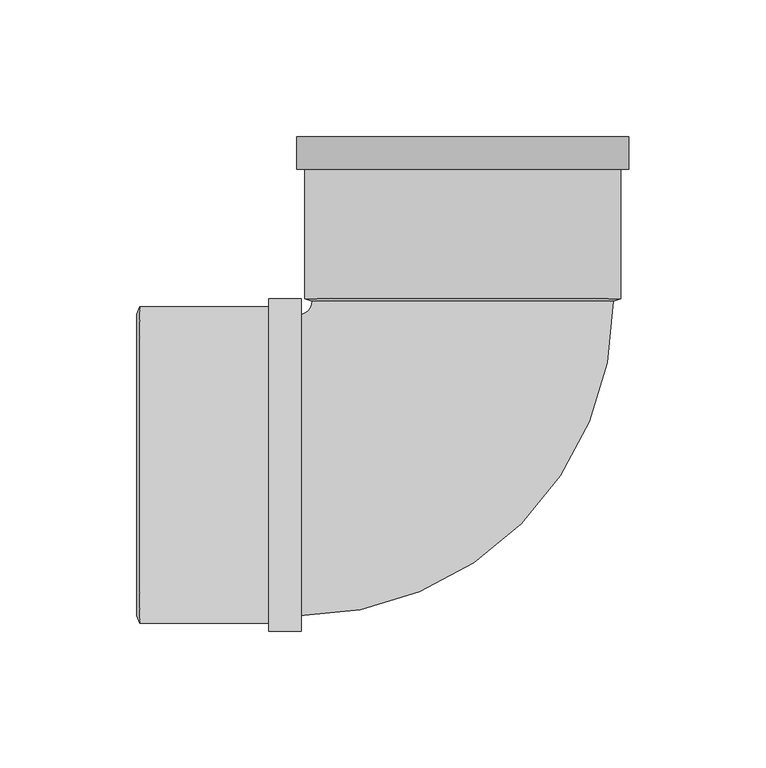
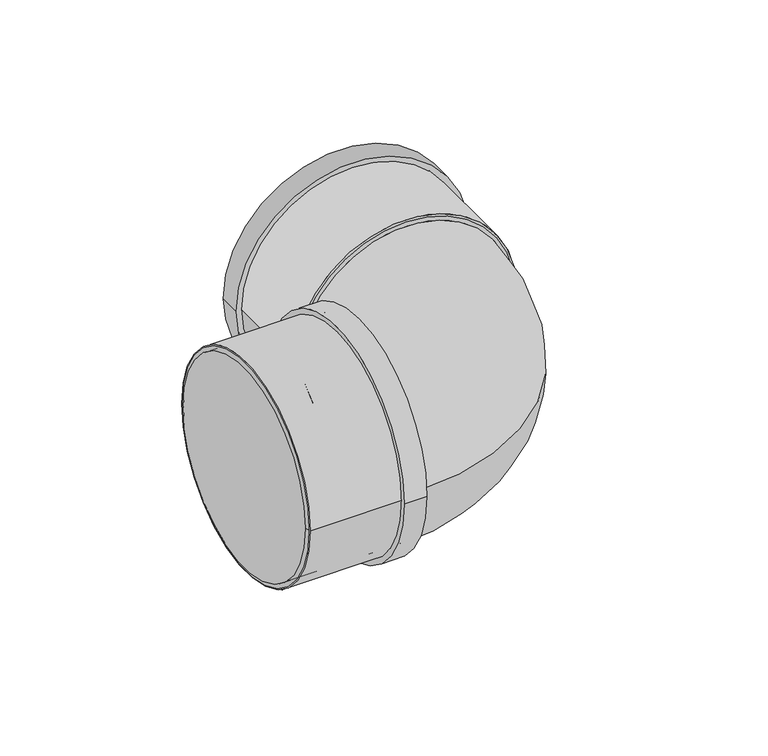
"""IFC4 building model written with IfcOpenShell, lengths in millimetres: pipe fitting geometry, Superdrain SK Bend_Composite 2x45 : Superdrain SK Bend_Composite 2x45."""

from ifc_helpers import new_model, si_unit, point, frame, origin, origin_2d, place, context, project, spatial, polyline, circle_curve, ellipse_curve, trimmed, segment, composite_curve, outline, extrude, source, transform, mapped, element, save
from ifc_brep_helpers import plane_surface, revolved_surface, advanced_brep


def pipe_fitting_bf39f6b9(model_context):
    return source(origin(), model_context, "Body", "SolidModel", [
        extrude(outline(composite_curve([segment(trimmed(circle_curve(origin_2d(), 57.75), [point((57.75, 0.0))], [point((-57.75, 0.0))], False, "CARTESIAN"), True, "CONTINUOUS"), segment(trimmed(circle_curve(origin_2d(), 57.75), [point((-57.75, 0.0))], [point((57.75, 0.0))], False, "CARTESIAN"), True, "CONTINUOUS")], self_intersect=False), holes=[composite_curve([segment(trimmed(circle_curve(origin_2d(), 55.0), [point((55.0, 0.0))], [point((-55.0, 0.0))], True, "CARTESIAN"), True, "CONTINUOUS"), segment(trimmed(circle_curve(origin_2d(), 55.0), [point((-55.0, 0.0))], [point((55.0, 0.0))], True, "CARTESIAN"), True, "CONTINUOUS")], self_intersect=False)]), frame((-118.0, 0.0, 0.0), z_axis=(1.0, 0.0, 0.0), x_axis=(0.0, 1.0, 0.0)), (0.0, 0.0, 1.0), 59.0),
        extrude(outline(composite_curve([segment(trimmed(circle_curve(origin_2d(), 60.6375), [point((60.6375, 0.0))], [point((-60.6375, 0.0))], False, "CARTESIAN"), True, "CONTINUOUS"), segment(trimmed(circle_curve(origin_2d(), 60.6375), [point((-60.6375, 0.0))], [point((60.6375, 0.0))], False, "CARTESIAN"), True, "CONTINUOUS")], self_intersect=False), holes=[composite_curve([segment(trimmed(circle_curve(origin_2d(), 55.0), [point((55.0, 0.0))], [point((-55.0, 0.0))], True, "CARTESIAN"), True, "CONTINUOUS"), segment(trimmed(circle_curve(origin_2d(), 55.0), [point((-55.0, 0.0))], [point((55.0, 0.0))], True, "CARTESIAN"), True, "CONTINUOUS")], self_intersect=False)]), frame((-70.8, 0.0, 0.0), z_axis=(1.0, 0.0, 0.0), x_axis=(0.0, 1.0, 0.0)), (0.0, 0.0, 1.0), 11.8),
        advanced_brep(
        [(-119.0, 55.0, 0.0), (-119.0, -55.0, 0.0), (-118.0, 57.75, 0.0), (-118.0, -57.75, 0.0)],
        [
            (0, 1, circle_curve(frame((-119.0, 0.0, 0.0), z_axis=(-1.0, 0.0, 0.0), x_axis=(0.0, 1.0000000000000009, 0.0)), 55.0)),
            (1, 0, circle_curve(frame((-119.0, 0.0, 0.0), z_axis=(-1.0, 0.0, 0.0), x_axis=(0.0, -1.0000000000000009, 0.0)), 55.0)),
            (2, 3, circle_curve(frame((-118.0, 0.0, 0.0), z_axis=(1.0, 0.0, 0.0), x_axis=(0.0, -1.0000000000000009, 0.0)), 57.75)),
            (3, 2, circle_curve(frame((-118.0, 0.0, 0.0), z_axis=(1.0, 0.0, 0.0), x_axis=(0.0, 1.0000000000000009, 0.0)), 57.75)),
            (3, 1),
            (0, 2),
        ],
        [
            plane_surface(frame((-119.0, 0.0, 0.0), z_axis=(-1.0, 0.0, 0.0), x_axis=(0.0, 0.0, -1.0))),
            plane_surface(frame((-118.0, 0.0, 0.0), z_axis=(1.0, 0.0, 0.0), x_axis=(0.0, 0.0, -1.0))),
            revolved_surface(polyline([(-119.0, 54.99999999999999, 0.0), (-118.0, 57.75, 0.0)]), (-139.0, 0.0, 0.0), (1.0000000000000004, 0.0, 0.0)),
            revolved_surface(polyline([(-119.0, -54.99999999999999, 0.0), (-118.0, -57.75, 0.0)]), (-139.0, 0.0, 0.0), (1.0000000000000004, 0.0, 0.0)),
        ],
        [
            (0, [[1, 2]]),
            (1, [[3, 4]]),
            (2, [[-4, 5, -1, 6]]),
            (3, [[-3, -6, -2, -5]]),
        ],
    ),
        advanced_brep(
        [(55.0, 59.8, 0.0), (-55.0, 59.8, 0.0), (-59.8, -55.0, 0.0), (-59.8, 55.0, 0.0)],
        [
            (0, 1, circle_curve(frame((0.0, 59.8, 0.0), z_axis=(0.0, 1.0, 0.0), x_axis=(-1.0, 0.0, 0.0)), 55.0)),
            (1, 0, circle_curve(frame((0.0, 59.8, 0.0), z_axis=(0.0, 1.0, 0.0), x_axis=(-1.0, 0.0, 0.0)), 55.0)),
            (2, 3, circle_curve(frame((-59.8, 0.0, 0.0), z_axis=(-1.0, 0.0, 0.0), x_axis=(0.0, 1.0, 0.0)), 55.0)),
            (3, 2, circle_curve(frame((-59.8, 0.0, 0.0), z_axis=(-1.0, 0.0, 0.0), x_axis=(0.0, 1.0, 0.0)), 55.0)),
            (3, 1, circle_curve(frame((-59.8, 59.8, 0.0), z_axis=(0.0, 0.0, 1.0), x_axis=(1.0, 0.0, 0.0)), 4.8)),
            (0, 2, circle_curve(frame((-59.8, 59.8, 0.0), z_axis=(0.0, 0.0, -1.0), x_axis=(1.0, 0.0, 0.0)), 114.8)),
        ],
        [
            plane_surface(frame((0.0, 59.8, 0.0), z_axis=(0.0, 1.0, 0.0), x_axis=(0.0, 0.0, -1.0))),
            plane_surface(frame((-59.8, 0.0, 0.0), z_axis=(-1.0, 0.0, 0.0), x_axis=(0.0, 0.0, -1.0))),
            revolved_surface(trimmed(ellipse_curve(frame((0.0, 59.8, 0.0), z_axis=(0.0, -1.0, 0.0), x_axis=(-1.0, 0.0, 0.0)), 55.0, 55.0), [point((-55.0, 59.8, 0.0))], [point((55.0, 59.8, 0.0))], True, "CARTESIAN"), (-59.8, 59.8, 0.0), (0.0, 0.0, 1.0)),
            revolved_surface(trimmed(ellipse_curve(frame((0.0, 59.8, 0.0), z_axis=(0.0, -1.0, 0.0), x_axis=(-1.0, 0.0, 0.0)), 55.0, 55.0), [point((55.0, 59.8, 0.0))], [point((-55.0, 59.8, 0.0))], True, "CARTESIAN"), (-59.8, 59.8, 0.0), (0.0, 0.0, 1.0)),
        ],
        [
            (0, [[1, 2]]),
            (1, [[3, 4]]),
            (2, [[-4, 5, -1, 6]]),
            (3, [[-3, -6, -2, -5]]),
        ],
    ),
        extrude(outline(composite_curve([segment(trimmed(circle_curve(origin_2d(), 57.75), [point((0.0, 57.75))], [point((0.0, -57.75))], False, "CARTESIAN"), True, "CONTINUOUS"), segment(trimmed(circle_curve(origin_2d(), 57.75), [point((0.0, -57.75))], [point((0.0, 57.75))], False, "CARTESIAN"), True, "CONTINUOUS")], self_intersect=False), holes=[composite_curve([segment(trimmed(circle_curve(origin_2d(), 55.0), [point((0.0, 55.0))], [point((0.0, -55.0))], True, "CARTESIAN"), True, "CONTINUOUS"), segment(trimmed(circle_curve(origin_2d(), 55.0), [point((0.0, -55.0))], [point((0.0, 55.0))], True, "CARTESIAN"), True, "CONTINUOUS")], self_intersect=False)]), frame((0.0, 60.8, 0.0), z_axis=(0.0, 1.0, 0.0), x_axis=(0.0, 0.0, 1.0)), (0.0, 0.0, 1.0), 59.0),
        extrude(outline(composite_curve([segment(trimmed(circle_curve(origin_2d(), 60.6375), [point((0.0, -60.6375))], [point((0.0, 60.6375))], False, "CARTESIAN"), True, "CONTINUOUS"), segment(trimmed(circle_curve(origin_2d(), 60.6375), [point((0.0, 60.6375))], [point((0.0, -60.6375))], False, "CARTESIAN"), True, "CONTINUOUS")], self_intersect=False), holes=[composite_curve([segment(trimmed(circle_curve(origin_2d(), 55.0), [point((0.0, -55.0))], [point((0.0, 55.0))], True, "CARTESIAN"), True, "CONTINUOUS"), segment(trimmed(circle_curve(origin_2d(), 55.0), [point((0.0, 55.0))], [point((0.0, -55.0))], True, "CARTESIAN"), True, "CONTINUOUS")], self_intersect=False)]), frame((0.0, 108.0, 0.0), z_axis=(0.0, 1.0, 0.0), x_axis=(0.0, 0.0, 1.0)), (0.0, 0.0, 1.0), 11.8),
        advanced_brep(
        [(57.75, 60.8, 0.0), (-57.75, 60.8, 0.0), (55.0, 59.8, 0.0), (-55.0, 59.8, 0.0)],
        [
            (0, 1, circle_curve(frame((0.0, 60.8, 0.0), z_axis=(0.0, 1.0, 0.0), x_axis=(1.0, 0.0, 0.0)), 57.75)),
            (1, 0, circle_curve(frame((0.0, 60.8, 0.0), z_axis=(0.0, 1.0, 0.0), x_axis=(-1.0, 0.0, 0.0)), 57.75)),
            (2, 3, circle_curve(frame((0.0, 59.8, 0.0), z_axis=(0.0, -1.0, 0.0), x_axis=(-1.0, 0.0, 0.0)), 55.0)),
            (3, 2, circle_curve(frame((0.0, 59.8, 0.0), z_axis=(0.0, -1.0, 0.0), x_axis=(1.0, 0.0, 0.0)), 55.0)),
            (3, 1),
            (0, 2),
        ],
        [
            plane_surface(frame((0.0, 60.8, 0.0), z_axis=(0.0, 1.0, 0.0), x_axis=(0.0, 0.0, -1.0))),
            plane_surface(frame((0.0, 59.8, 0.0), z_axis=(0.0, -1.0, 0.0), x_axis=(0.0, 0.0, -1.0))),
            revolved_surface(polyline([(-55.0, 59.8, 0.0), (-57.75, 60.8, 0.0)]), (0.0, 39.8, 0.0), (0.0, 1.0, 0.0)),
            revolved_surface(polyline([(55.0, 59.8, 0.0), (57.75, 60.8, 0.0)]), (0.0, 39.8, 0.0), (0.0, 1.0, 0.0)),
        ],
        [
            (0, [[1, 2]]),
            (1, [[3, 4]]),
            (2, [[-4, 5, -1, 6]]),
            (3, [[-3, -6, -2, -5]]),
        ],
    ),
        extrude(outline(composite_curve([segment(trimmed(circle_curve(origin_2d(), 55.0), [point((-55.0, 0.0))], [point((55.0, 0.0))], False, "CARTESIAN"), True, "CONTINUOUS"), segment(trimmed(circle_curve(origin_2d(), 55.0), [point((55.0, 0.0))], [point((-55.0, 0.0))], False, "CARTESIAN"), True, "CONTINUOUS")], self_intersect=False)), frame((-118.0, 0.0, 0.0), z_axis=(1.0, 0.0, 0.0), x_axis=(0.0, 1.0, 0.0)), (0.0, 0.0, 1.0), 58.2),
    ])


if __name__ == "__main__":
    model = new_model("IFC4")
    model_context = context("Model", 3, world=origin())
    ifc_project = project(units=[si_unit("LENGTHUNIT", "METRE", prefix="MILLI")], contexts=[model_context])
    site = spatial("IfcSite", under=ifc_project)
    building = spatial("IfcBuilding", under=site)
    placement = place(None, origin())
    pipe_fitting_shape = pipe_fitting_bf39f6b9(model_context)
    element("IfcPipeFitting", 1, ObjectType="Superdrain SK Bend_Composite 2x45 : Superdrain SK Bend_Composite 2x45", at=placement, inside=building, context=model_context, shape_type="MappedRepresentation", body=[
        mapped(pipe_fitting_shape, transform((0.0, 0.0, 0.0), x_axis=(1.0, 0.0, 0.0), y_axis=(0.0, 1.0, 0.0), z_axis=(0.0, 0.0, 1.0))),
    ])
    save(model, "model.ifc")
